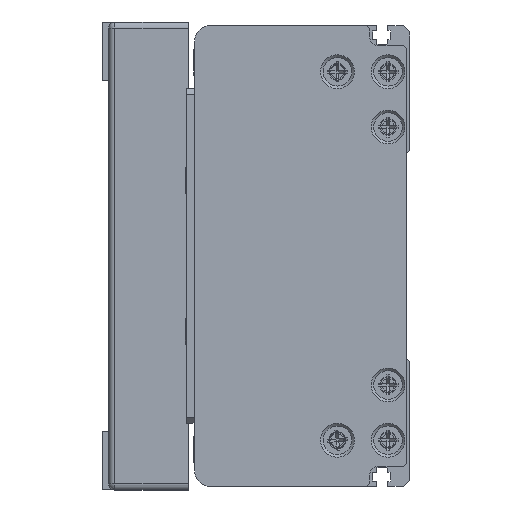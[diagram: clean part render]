
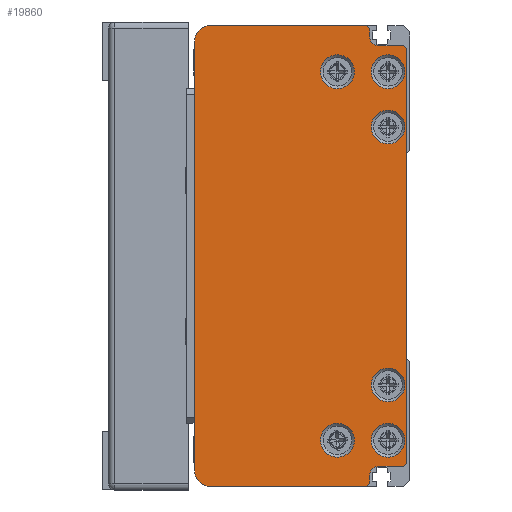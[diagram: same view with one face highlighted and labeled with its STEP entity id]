
A CAD part, left-side view. The second image highlights one B-rep face of the part: STEP entity #19860.
In plain terms, the highlighted planar face has unit normal (-1, 0, 0) as drawn and (0, 0, -1) by its records, which use the part's own axes.
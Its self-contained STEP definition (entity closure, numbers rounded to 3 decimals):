
#934=LINE('',#28722,#2599);
#935=LINE('',#28726,#2600);
#936=LINE('',#28728,#2601);
#937=LINE('',#28730,#2602);
#938=LINE('',#28734,#2603);
#939=LINE('',#28736,#2604);
#940=LINE('',#28738,#2605);
#941=LINE('',#28740,#2606);
#942=LINE('',#28742,#2607);
#943=LINE('',#28746,#2608);
#944=LINE('',#28748,#2609);
#945=LINE('',#28750,#2610);
#2599=VECTOR('',#23323,140.);
#2600=VECTOR('',#23326,51.);
#2601=VECTOR('',#23327,1.414);
#2602=VECTOR('',#23328,2.5);
#2603=VECTOR('',#23331,8.);
#2604=VECTOR('',#23332,1.414);
#2605=VECTOR('',#23333,135.);
#2606=VECTOR('',#23334,1.414);
#2607=VECTOR('',#23335,8.);
#2608=VECTOR('',#23338,2.5);
#2609=VECTOR('',#23339,1.414);
#2610=VECTOR('',#23340,51.);
#4217=PLANE('',#21226);
#4846=FACE_BOUND('',#6688,.T.);
#4847=FACE_BOUND('',#6689,.T.);
#4848=FACE_BOUND('',#6690,.T.);
#4849=FACE_BOUND('',#6691,.T.);
#4850=FACE_BOUND('',#6692,.T.);
#4851=FACE_BOUND('',#6693,.T.);
#5405=FACE_OUTER_BOUND('',#6687,.T.);
#6687=EDGE_LOOP('',(#13947,#13948,#13949,#13950,#13951,#13952,#13953,#13954,
#13955,#13956,#13957,#13958,#13959,#13960,#13961,#13962));
#6688=EDGE_LOOP('',(#13963));
#6689=EDGE_LOOP('',(#13964));
#6690=EDGE_LOOP('',(#13965));
#6691=EDGE_LOOP('',(#13966));
#6692=EDGE_LOOP('',(#13967));
#6693=EDGE_LOOP('',(#13968));
#8199=CIRCLE('',#21227,5.);
#8200=CIRCLE('',#21228,3.);
#8201=CIRCLE('',#21229,3.);
#8202=CIRCLE('',#21230,5.);
#8203=CIRCLE('',#21231,5.5);
#8204=CIRCLE('',#21232,5.5);
#8205=CIRCLE('',#21233,5.5);
#8206=CIRCLE('',#21234,5.5);
#8207=CIRCLE('',#21235,5.5);
#8208=CIRCLE('',#21236,5.5);
#8891=VERTEX_POINT('',#28720);
#8892=VERTEX_POINT('',#28721);
#8893=VERTEX_POINT('',#28723);
#8894=VERTEX_POINT('',#28725);
#8895=VERTEX_POINT('',#28727);
#8896=VERTEX_POINT('',#28729);
#8897=VERTEX_POINT('',#28731);
#8898=VERTEX_POINT('',#28733);
#8899=VERTEX_POINT('',#28735);
#8900=VERTEX_POINT('',#28737);
#8901=VERTEX_POINT('',#28739);
#8902=VERTEX_POINT('',#28741);
#8903=VERTEX_POINT('',#28743);
#8904=VERTEX_POINT('',#28745);
#8905=VERTEX_POINT('',#28747);
#8906=VERTEX_POINT('',#28749);
#8907=VERTEX_POINT('',#28752);
#8908=VERTEX_POINT('',#28754);
#8909=VERTEX_POINT('',#28756);
#8910=VERTEX_POINT('',#28758);
#8911=VERTEX_POINT('',#28760);
#8912=VERTEX_POINT('',#28762);
#10927=EDGE_CURVE('',#8891,#8892,#934,.T.);
#10928=EDGE_CURVE('',#8892,#8893,#8199,.T.);
#10929=EDGE_CURVE('',#8893,#8894,#935,.T.);
#10930=EDGE_CURVE('',#8894,#8895,#936,.T.);
#10931=EDGE_CURVE('',#8895,#8896,#937,.T.);
#10932=EDGE_CURVE('',#8896,#8897,#8200,.T.);
#10933=EDGE_CURVE('',#8897,#8898,#938,.T.);
#10934=EDGE_CURVE('',#8898,#8899,#939,.T.);
#10935=EDGE_CURVE('',#8899,#8900,#940,.T.);
#10936=EDGE_CURVE('',#8900,#8901,#941,.T.);
#10937=EDGE_CURVE('',#8901,#8902,#942,.T.);
#10938=EDGE_CURVE('',#8902,#8903,#8201,.T.);
#10939=EDGE_CURVE('',#8903,#8904,#943,.T.);
#10940=EDGE_CURVE('',#8904,#8905,#944,.T.);
#10941=EDGE_CURVE('',#8905,#8906,#945,.T.);
#10942=EDGE_CURVE('',#8906,#8891,#8202,.T.);
#10943=EDGE_CURVE('',#8907,#8907,#8203,.T.);
#10944=EDGE_CURVE('',#8908,#8908,#8204,.T.);
#10945=EDGE_CURVE('',#8909,#8909,#8205,.T.);
#10946=EDGE_CURVE('',#8910,#8910,#8206,.T.);
#10947=EDGE_CURVE('',#8911,#8911,#8207,.T.);
#10948=EDGE_CURVE('',#8912,#8912,#8208,.T.);
#13947=ORIENTED_EDGE('',*,*,#10927,.T.);
#13948=ORIENTED_EDGE('',*,*,#10928,.T.);
#13949=ORIENTED_EDGE('',*,*,#10929,.T.);
#13950=ORIENTED_EDGE('',*,*,#10930,.T.);
#13951=ORIENTED_EDGE('',*,*,#10931,.T.);
#13952=ORIENTED_EDGE('',*,*,#10932,.T.);
#13953=ORIENTED_EDGE('',*,*,#10933,.T.);
#13954=ORIENTED_EDGE('',*,*,#10934,.T.);
#13955=ORIENTED_EDGE('',*,*,#10935,.T.);
#13956=ORIENTED_EDGE('',*,*,#10936,.T.);
#13957=ORIENTED_EDGE('',*,*,#10937,.T.);
#13958=ORIENTED_EDGE('',*,*,#10938,.T.);
#13959=ORIENTED_EDGE('',*,*,#10939,.T.);
#13960=ORIENTED_EDGE('',*,*,#10940,.T.);
#13961=ORIENTED_EDGE('',*,*,#10941,.T.);
#13962=ORIENTED_EDGE('',*,*,#10942,.T.);
#13963=ORIENTED_EDGE('',*,*,#10943,.T.);
#13964=ORIENTED_EDGE('',*,*,#10944,.T.);
#13965=ORIENTED_EDGE('',*,*,#10945,.T.);
#13966=ORIENTED_EDGE('',*,*,#10946,.T.);
#13967=ORIENTED_EDGE('',*,*,#10947,.T.);
#13968=ORIENTED_EDGE('',*,*,#10948,.T.);
#19860=ADVANCED_FACE('',(#5405,#4846,#4847,#4848,#4849,#4850,#4851),#4217,
 .F.);
#21226=AXIS2_PLACEMENT_3D('',#28719,#23321,#23322);
#21227=AXIS2_PLACEMENT_3D('',#28724,#23324,#23325);
#21228=AXIS2_PLACEMENT_3D('',#28732,#23329,#23330);
#21229=AXIS2_PLACEMENT_3D('',#28744,#23336,#23337);
#21230=AXIS2_PLACEMENT_3D('',#28751,#23341,#23342);
#21231=AXIS2_PLACEMENT_3D('',#28753,#23343,#23344);
#21232=AXIS2_PLACEMENT_3D('',#28755,#23345,#23346);
#21233=AXIS2_PLACEMENT_3D('',#28757,#23347,#23348);
#21234=AXIS2_PLACEMENT_3D('',#28759,#23349,#23350);
#21235=AXIS2_PLACEMENT_3D('',#28761,#23351,#23352);
#21236=AXIS2_PLACEMENT_3D('',#28763,#23353,#23354);
#23321=DIRECTION('center_axis',(0.,0.,
1.));
#23322=DIRECTION('ref_axis',(1.,0.,0.));
#23323=DIRECTION('',(1.,0.,0.));
#23324=DIRECTION('center_axis',(0.,0.,
-1.));
#23325=DIRECTION('ref_axis',(-1.,0.,0.));
#23326=DIRECTION('',(0.,-1.,0.));
#23327=DIRECTION('',(-0.707,-0.707,0.));
#23328=DIRECTION('',(-1.,0.,0.));
#23329=DIRECTION('center_axis',(0.,0.,
1.));
#23330=DIRECTION('ref_axis',(0.,1.,0.));
#23331=DIRECTION('',(0.,-1.,0.));
#23332=DIRECTION('',(-0.707,-0.707,0.));
#23333=DIRECTION('',(-1.,0.,0.));
#23334=DIRECTION('',(-0.707,0.707,0.));
#23335=DIRECTION('',(0.,1.,0.));
#23336=DIRECTION('center_axis',(0.,0.,
1.));
#23337=DIRECTION('ref_axis',(1.,0.,0.));
#23338=DIRECTION('',(-1.,0.,0.));
#23339=DIRECTION('',(-0.707,0.707,0.));
#23340=DIRECTION('',(0.,1.,0.));
#23341=DIRECTION('center_axis',(0.,0.,
-1.));
#23342=DIRECTION('ref_axis',(0.,-1.,0.));
#23343=DIRECTION('center_axis',(0.,0.,
1.));
#23344=DIRECTION('ref_axis',(-1.,0.,0.));
#23345=DIRECTION('center_axis',(0.,0.,
1.));
#23346=DIRECTION('ref_axis',(-1.,0.,0.));
#23347=DIRECTION('center_axis',(0.,0.,
1.));
#23348=DIRECTION('ref_axis',(-1.,0.,0.));
#23349=DIRECTION('center_axis',(0.,0.,
1.));
#23350=DIRECTION('ref_axis',(-1.,0.,0.));
#23351=DIRECTION('center_axis',(0.,0.,
1.));
#23352=DIRECTION('ref_axis',(-1.,0.,0.));
#23353=DIRECTION('center_axis',(0.,0.,
1.));
#23354=DIRECTION('ref_axis',(-1.,0.,0.));
#28719=CARTESIAN_POINT('Origin',(0.25,38.047,-1169.));
#28720=CARTESIAN_POINT('',(-69.75,72.25,-1169.));
#28721=CARTESIAN_POINT('',(70.25,72.25,-1169.));
#28722=CARTESIAN_POINT('',(-69.75,72.25,-1169.));
#28723=CARTESIAN_POINT('',(75.25,67.25,-1169.));
#28724=CARTESIAN_POINT('Origin',(70.25,67.25,-1169.));
#28725=CARTESIAN_POINT('',(75.25,16.25,-1169.));
#28726=CARTESIAN_POINT('',(75.25,67.25,-1169.));
#28727=CARTESIAN_POINT('',(74.25,15.25,-1169.));
#28728=CARTESIAN_POINT('',(75.25,16.25,-1169.));
#28729=CARTESIAN_POINT('',(71.75,15.25,-1169.));
#28730=CARTESIAN_POINT('',(74.25,15.25,-1169.));
#28731=CARTESIAN_POINT('',(68.75,12.25,-1169.));
#28732=CARTESIAN_POINT('Origin',(71.75,12.25,-1169.));
#28733=CARTESIAN_POINT('',(68.75,4.25,-1169.));
#28734=CARTESIAN_POINT('',(68.75,12.25,-1169.));
#28735=CARTESIAN_POINT('',(67.75,3.25,-1169.));
#28736=CARTESIAN_POINT('',(68.75,4.25,-1169.));
#28737=CARTESIAN_POINT('',(-67.25,3.25,-1169.));
#28738=CARTESIAN_POINT('',(67.75,3.25,-1169.));
#28739=CARTESIAN_POINT('',(-68.25,4.25,-1169.));
#28740=CARTESIAN_POINT('',(-67.25,3.25,-1169.));
#28741=CARTESIAN_POINT('',(-68.25,12.25,-1169.));
#28742=CARTESIAN_POINT('',(-68.25,4.25,-1169.));
#28743=CARTESIAN_POINT('',(-71.25,15.25,-1169.));
#28744=CARTESIAN_POINT('Origin',(-71.25,12.25,-1169.));
#28745=CARTESIAN_POINT('',(-73.75,15.25,-1169.));
#28746=CARTESIAN_POINT('',(-71.25,15.25,-1169.));
#28747=CARTESIAN_POINT('',(-74.75,16.25,-1169.));
#28748=CARTESIAN_POINT('',(-73.75,15.25,-1169.));
#28749=CARTESIAN_POINT('',(-74.75,67.25,-1169.));
#28750=CARTESIAN_POINT('',(-74.75,16.25,-1169.));
#28751=CARTESIAN_POINT('Origin',(-69.75,67.25,-1169.));
#28752=CARTESIAN_POINT('',(-47.25,9.25,-1169.));
#28753=CARTESIAN_POINT('Origin',(-41.75,9.25,-1169.));
#28754=CARTESIAN_POINT('',(36.75,9.25,-1169.));
#28755=CARTESIAN_POINT('Origin',(42.25,9.25,-1169.));
#28756=CARTESIAN_POINT('',(-65.25,25.75,-1169.));
#28757=CARTESIAN_POINT('Origin',(-59.75,25.75,-1169.));
#28758=CARTESIAN_POINT('',(54.75,25.75,-1169.));
#28759=CARTESIAN_POINT('Origin',(60.25,25.75,-1169.));
#28760=CARTESIAN_POINT('',(-65.25,9.25,-1169.));
#28761=CARTESIAN_POINT('Origin',(-59.75,9.25,-1169.));
#28762=CARTESIAN_POINT('',(54.75,9.25,-1169.));
#28763=CARTESIAN_POINT('Origin',(60.25,9.25,-1169.));
